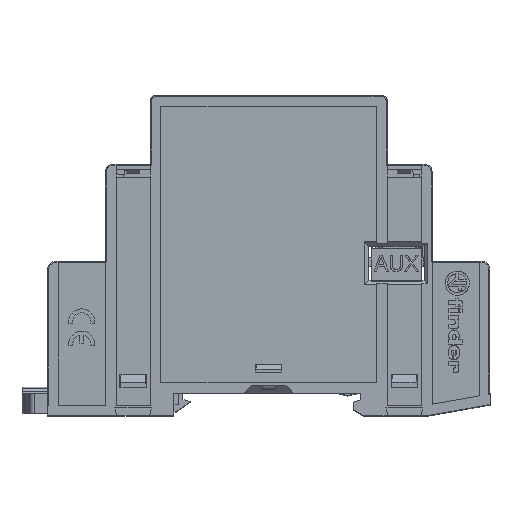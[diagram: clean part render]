
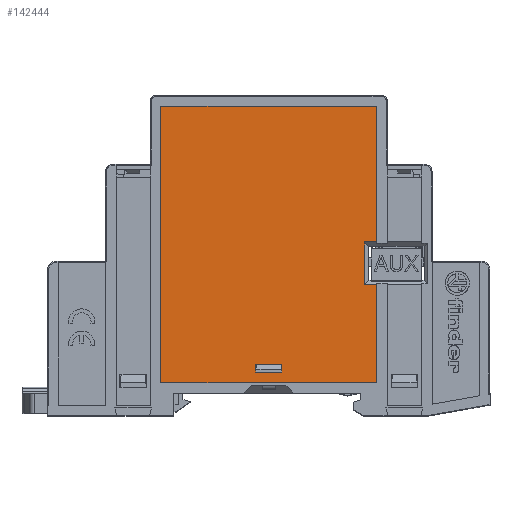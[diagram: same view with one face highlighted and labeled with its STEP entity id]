
A CAD part, top view. The second image highlights one B-rep face of the part: STEP entity #142444.
In plain terms, the highlighted planar face has unit normal (0, 0, 1).
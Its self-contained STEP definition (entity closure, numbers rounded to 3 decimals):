
#14126=LINE('',#210294,#26471);
#14128=LINE('',#210298,#26473);
#14130=LINE('',#210302,#26475);
#14132=LINE('',#210306,#26477);
#14135=LINE('',#210313,#26480);
#14219=LINE('',#210532,#26564);
#14222=LINE('',#210538,#26567);
#14230=LINE('',#210552,#26575);
#14366=LINE('',#210868,#26711);
#14367=LINE('',#210870,#26712);
#14368=LINE('',#210872,#26713);
#14369=LINE('',#210874,#26714);
#26471=VECTOR('',#175074,1000.);
#26473=VECTOR('',#175078,1000.);
#26475=VECTOR('',#175082,1000.);
#26477=VECTOR('',#175086,1000.);
#26480=VECTOR('',#175091,1000.);
#26564=VECTOR('',#175367,1000.);
#26567=VECTOR('',#175372,1000.);
#26575=VECTOR('',#175388,1000.);
#26711=VECTOR('',#175750,1000.);
#26712=VECTOR('',#175753,1000.);
#26713=VECTOR('',#175754,1000.);
#26714=VECTOR('',#175755,1000.);
#55842=ORIENTED_EDGE('',*,*,#70782,.F.);
#55843=ORIENTED_EDGE('',*,*,#70783,.F.);
#55844=ORIENTED_EDGE('',*,*,#70784,.F.);
#55845=ORIENTED_EDGE('',*,*,#70785,.T.);
#55846=ORIENTED_EDGE('',*,*,#70616,.F.);
#55847=ORIENTED_EDGE('',*,*,#70619,.F.);
#55848=ORIENTED_EDGE('',*,*,#70627,.F.);
#55849=ORIENTED_EDGE('',*,*,#70505,.F.);
#55850=ORIENTED_EDGE('',*,*,#70502,.T.);
#55851=ORIENTED_EDGE('',*,*,#70500,.F.);
#55852=ORIENTED_EDGE('',*,*,#70498,.F.);
#55853=ORIENTED_EDGE('',*,*,#70496,.F.);
#70496=EDGE_CURVE('',#80613,#80614,#14126,.T.);
#70498=EDGE_CURVE('',#80614,#80615,#14128,.T.);
#70500=EDGE_CURVE('',#80615,#80616,#14130,.T.);
#70502=EDGE_CURVE('',#80613,#80616,#14132,.T.);
#70505=EDGE_CURVE('',#80619,#80620,#14135,.T.);
#70616=EDGE_CURVE('',#80630,#80631,#14219,.T.);
#70619=EDGE_CURVE('',#80632,#80630,#14222,.T.);
#70627=EDGE_CURVE('',#80620,#80632,#14230,.T.);
#70782=EDGE_CURVE('',#80653,#80619,#14366,.T.);
#70783=EDGE_CURVE('',#80654,#80653,#14367,.T.);
#70784=EDGE_CURVE('',#80655,#80654,#14368,.T.);
#70785=EDGE_CURVE('',#80655,#80631,#14369,.T.);
#80613=VERTEX_POINT('',#210293);
#80614=VERTEX_POINT('',#210295);
#80615=VERTEX_POINT('',#210299);
#80616=VERTEX_POINT('',#210303);
#80619=VERTEX_POINT('',#210312);
#80620=VERTEX_POINT('',#210314);
#80630=VERTEX_POINT('',#210531);
#80631=VERTEX_POINT('',#210533);
#80632=VERTEX_POINT('',#210537);
#80653=VERTEX_POINT('',#210867);
#80654=VERTEX_POINT('',#210871);
#80655=VERTEX_POINT('',#210873);
#88541=EDGE_LOOP('',(#55842,#55843,#55844,#55845,#55846,#55847,#55848,#55849));
#88542=EDGE_LOOP('',(#55850,#55851,#55852,#55853));
#94819=FACE_BOUND('',#88541,.T.);
#94820=FACE_BOUND('',#88542,.T.);
#99349=PLANE('',#149466);
#142444=ADVANCED_FACE('',(#94819,#94820),#99349,.T.);
#149466=AXIS2_PLACEMENT_3D('',#210869,#175751,#175752);
#175074=DIRECTION('',(-1.,0.,0.));
#175078=DIRECTION('',(0.,-1.,0.));
#175082=DIRECTION('',(1.,0.,0.));
#175086=DIRECTION('',(0.,-1.,0.));
#175091=DIRECTION('',(0.,-1.,0.));
#175367=DIRECTION('',(-1.,0.,0.));
#175372=DIRECTION('',(0.,-1.,0.));
#175388=DIRECTION('',(1.,0.,0.));
#175750=DIRECTION('',(-1.,0.,0.));
#175751=DIRECTION('',(0.,0.,1.));
#175752=DIRECTION('',(1.,0.,0.));
#175753=DIRECTION('',(0.,-1.,0.));
#175754=DIRECTION('',(1.,0.,0.));
#175755=DIRECTION('',(0.,-1.,0.));
#210293=CARTESIAN_POINT('',(2.5,-43.5,0.));
#210294=CARTESIAN_POINT('',(2.5,-43.5,0.));
#210295=CARTESIAN_POINT('',(-2.5,-43.5,0.));
#210298=CARTESIAN_POINT('',(-2.5,-43.5,0.));
#210299=CARTESIAN_POINT('',(-2.5,-45.,0.));
#210302=CARTESIAN_POINT('',(-2.5,-45.,0.));
#210303=CARTESIAN_POINT('',(2.5,-45.,0.));
#210306=CARTESIAN_POINT('',(2.5,-43.5,0.));
#210312=CARTESIAN_POINT('',(18.2,-20.3,0.));
#210313=CARTESIAN_POINT('',(18.2,-47.001,0.));
#210314=CARTESIAN_POINT('',(18.2,-28.4,0.));
#210531=CARTESIAN_POINT('',(20.5,-47.,0.));
#210532=CARTESIAN_POINT('',(20.5,-47.,0.));
#210533=CARTESIAN_POINT('',(-20.5,-47.,0.));
#210537=CARTESIAN_POINT('',(20.5,-28.4,0.));
#210538=CARTESIAN_POINT('',(20.5,5.5,0.));
#210552=CARTESIAN_POINT('',(-20.501,-28.4,0.));
#210867=CARTESIAN_POINT('',(20.5,-20.3,0.));
#210868=CARTESIAN_POINT('',(-20.501,-20.3,0.));
#210869=CARTESIAN_POINT('',(-20.501,-47.001,0.));
#210870=CARTESIAN_POINT('',(20.5,5.5,0.));
#210871=CARTESIAN_POINT('',(20.5,5.5,0.));
#210872=CARTESIAN_POINT('',(-20.5,5.5,0.));
#210873=CARTESIAN_POINT('',(-20.5,5.5,0.));
#210874=CARTESIAN_POINT('',(-20.5,5.5,0.));
